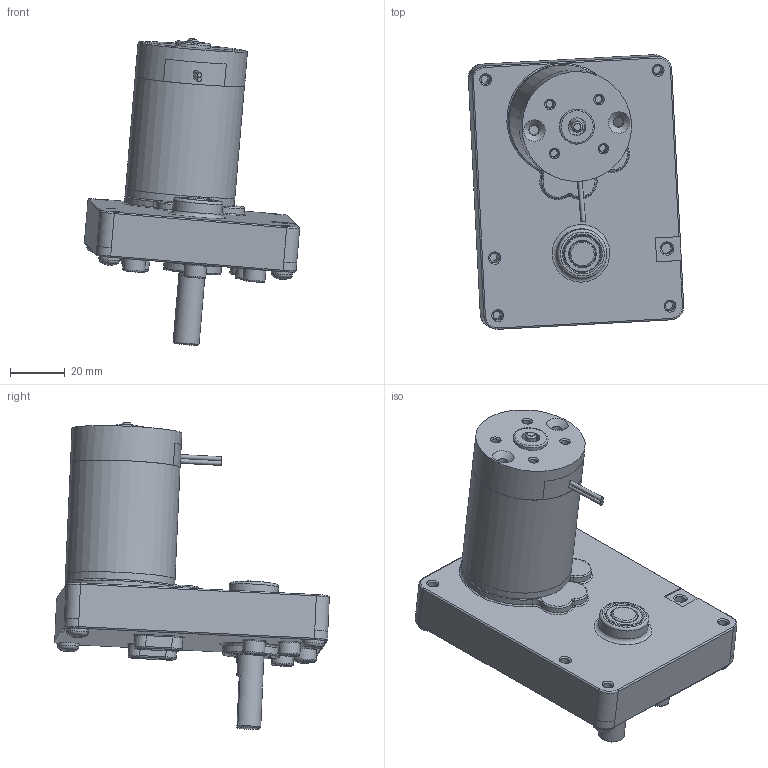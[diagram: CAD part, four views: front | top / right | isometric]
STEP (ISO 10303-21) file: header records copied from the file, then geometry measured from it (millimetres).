
FILE_DESCRIPTION(/* description */ (''),/* implementation_level */ '2;1');
FILE_NAME(/* name */ 'C:\Users\byjeong\Desktop\3D도면\SP43BL.stp',/* time_stamp */ '2015-03-31T15:16:18+09:00',/* author */ ('byjeong'),/* organization */ (''),/* preprocessor_version */ 'ST-DEVELOPER v15.6',/* originating_system */ 'Autodesk Inventor 2015',/* authorisation */ '');
FILE_SCHEMA (('AUTOMOTIVE_DESIGN { 1 0 10303 214 3 1 1 }'));
Length unit declared in the file: millimetre
Products named in the file (9): SQ BOX ASSY; RM4TYPE_FRONT_HOUSING_; RM4TYPE_PIPE_HOUSING_pi40XL40.8; RM43TYPE_SHAFT; RM4TYPE_BRUSH_BRAKET_LEAD; RM4TYPE_REAR_HOUSING; REAR_HOUSING__ASS'Y_LEAD; RM43ㅁBL; 조립품23
Bounding box: 78.3 x 99.88 x 111.54 mm (x, y, z)
Volume: 146979 mm3; surface area: 45030.4 mm2
Topology: 12 solids, 12 shells, 382 faces, 850 edges, 528 vertices
Faces by surface type: plane 116, cylinder 102, cone 87, torus 70, sphere 4, bspline 3
Full cylindrical faces by diameter (mm): 1.6 x2, 2.7 x4, 2.8 x4, 3.3 x4, 3.4 x3, 3.5 x1, 3.571 x3, 3.7 x2, 3.9 x1, 3.969 x1, 4 x10, 4.4 x3, 5 x1, 6.5 x1, 6.65 x1, 8 x5, 9.5 x3, 12.7 x3, 13.5 x2, 14.3 x1, 18 x1, 21 x1, 36.5 x1, 40 x3
Entity records: 10443 total; most frequent: CARTESIAN_POINT 2395, DIRECTION 1767, ORIENTED_EDGE 1384, AXIS2_PLACEMENT_3D 810, EDGE_CURVE 691, EDGE_LOOP 587, VERTEX_POINT 503, CIRCLE 414
